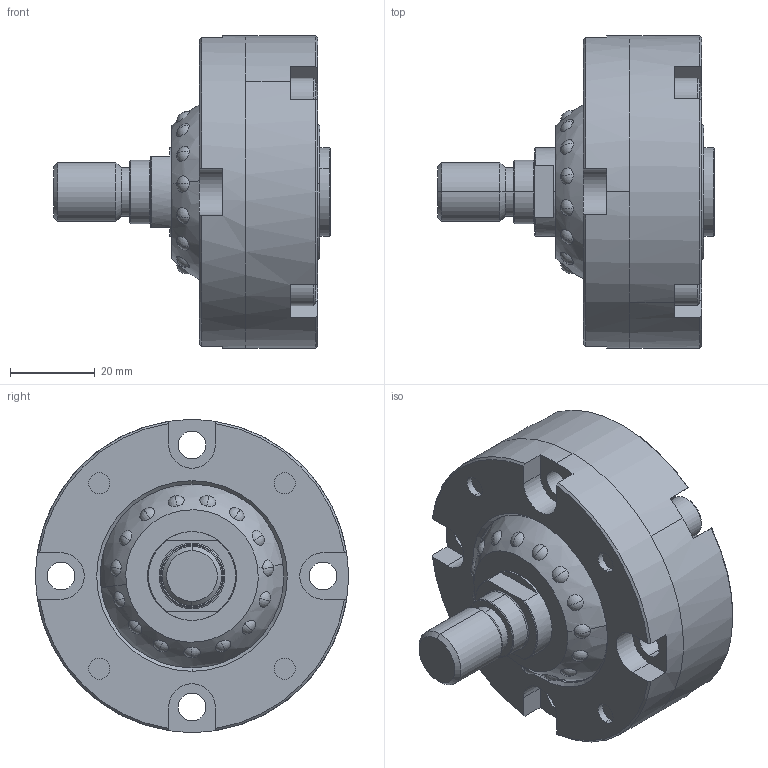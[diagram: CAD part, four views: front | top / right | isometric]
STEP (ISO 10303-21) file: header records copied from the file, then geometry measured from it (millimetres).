
FILE_DESCRIPTION (( 'STEP AP214' ), '1' );
FILE_NAME ('SRJS024C_HOUSING-B tap.STEP', '2025-07-15T05:58:18', ( '' ), ( '' ), 'SwSTEP 2.0', 'SolidWorks 2023', '' );
FILE_SCHEMA (( 'AUTOMOTIVE_DESIGN' ));
Length unit declared in the file: millimetre
Products named in the file (1): SRJS024C_HOUSING-B tap
Bounding box: 65.5 x 74 x 74 mm (x, y, z)
Volume: 125334.6 mm3; surface area: 29180.8 mm2
Topology: 2 solids, 2 shells, 320 faces, 864 edges, 568 vertices
Faces by surface type: cylinder 194, plane 48, sphere 36, cone 28, bspline 12, torus 2
Entity records: 21106 total; most frequent: CARTESIAN_POINT 13837, ORIENTED_EDGE 1702, DIRECTION 1384, EDGE_CURVE 851, VERTEX_POINT 561, AXIS2_PLACEMENT_3D 556, EDGE_LOOP 356, FACE_OUTER_BOUND 320
